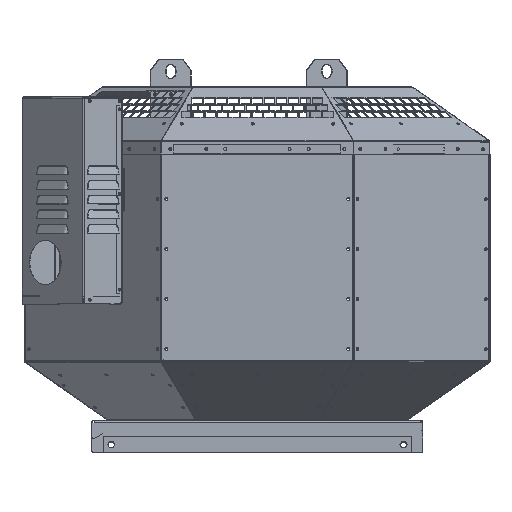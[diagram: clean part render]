
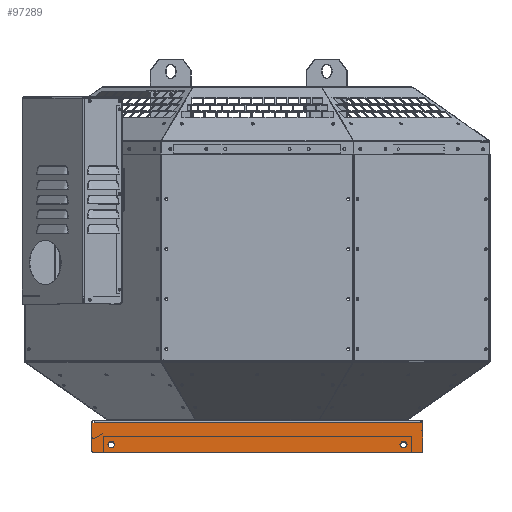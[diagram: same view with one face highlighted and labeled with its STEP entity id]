
A CAD part, top view. The second image highlights one B-rep face of the part: STEP entity #97289.
In plain terms, the highlighted planar face has unit normal (0, 0, 1).
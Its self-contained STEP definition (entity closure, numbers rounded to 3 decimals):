
#28 = EDGE_CURVE ( 'NONE', #84892, #71558, #55394, .T. ) ;
#1689 = DIRECTION ( 'NONE',  ( 1., 0., 0. ) ) ;
#2508 = FACE_OUTER_BOUND ( 'NONE', #82735, .T. ) ;
#4358 = DIRECTION ( 'NONE',  ( 0., 0., 1. ) ) ;
#5643 = DIRECTION ( 'NONE',  ( 0., -1., 0. ) ) ;
#6312 = CIRCLE ( 'NONE', #97469, 3. ) ;
#6555 = LINE ( 'NONE', #84169, #69937 ) ;
#7657 = CARTESIAN_POINT ( 'NONE',  ( 204.5, -13.2, 220.3 ) ) ;
#7997 = CARTESIAN_POINT ( 'NONE',  ( -228.75, -24., 220.3 ) ) ;
#8173 = CIRCLE ( 'NONE', #68276, 4.5 ) ;
#8330 = CARTESIAN_POINT ( 'NONE',  ( -215.75, -24., 220.3 ) ) ;
#8606 = EDGE_CURVE ( 'NONE', #87489, #104106, #6312, .T. ) ;
#8801 = CIRCLE ( 'NONE', #69720, 4.5 ) ;
#9143 = ORIENTED_EDGE ( 'NONE', *, *, #93386, .F. ) ;
#9507 = CARTESIAN_POINT ( 'NONE',  ( 231.75, 17.6, 220.3 ) ) ;
#10262 = LINE ( 'NONE', #58693, #95721 ) ;
#11489 = CARTESIAN_POINT ( 'NONE',  ( -204.5, -13.2, 220.3 ) ) ;
#12673 = ORIENTED_EDGE ( 'NONE', *, *, #30685, .F. ) ;
#12712 = VERTEX_POINT ( 'NONE', #107083 ) ;
#12759 = ORIENTED_EDGE ( 'NONE', *, *, #61240, .F. ) ;
#13928 = VERTEX_POINT ( 'NONE', #58318 ) ;
#15952 = PLANE ( 'NONE',  #75641 ) ;
#15955 = DIRECTION ( 'NONE',  ( 0., -1., 0. ) ) ;
#16637 = DIRECTION ( 'NONE',  ( -1., 0., 0. ) ) ;
#17750 = VERTEX_POINT ( 'NONE', #46369 ) ;
#19090 = VERTEX_POINT ( 'NONE', #56769 ) ;
#19810 = DIRECTION ( 'NONE',  ( 0., -1., 0. ) ) ;
#21574 = EDGE_CURVE ( 'NONE', #71558, #36929, #84402, .T. ) ;
#21606 = VERTEX_POINT ( 'NONE', #30955 ) ;
#22005 = CARTESIAN_POINT ( 'NONE',  ( -231.75, -21., 220.3 ) ) ;
#22439 = EDGE_CURVE ( 'NONE', #17750, #49286, #6555, .T. ) ;
#23155 = EDGE_CURVE ( 'NONE', #17750, #91857, #10262, .T. ) ;
#23888 = EDGE_CURVE ( 'NONE', #13928, #19090, #8801, .T. ) ;
#24310 = CARTESIAN_POINT ( 'NONE',  ( -215.75, 19.5, 220.3 ) ) ;
#26759 = LINE ( 'NONE', #80713, #46217 ) ;
#29825 = EDGE_LOOP ( 'NONE', ( #9143, #12759 ) ) ;
#30251 = DIRECTION ( 'NONE',  ( 0., -1., 0. ) ) ;
#30685 = EDGE_CURVE ( 'NONE', #19090, #13928, #61162, .T. ) ;
#30955 = CARTESIAN_POINT ( 'NONE',  ( 204.5, -17.7, 220.3 ) ) ;
#34436 = EDGE_CURVE ( 'NONE', #49286, #104106, #42451, .T. ) ;
#35492 = VECTOR ( 'NONE', #16637, 1000. ) ;
#35947 = VECTOR ( 'NONE', #30251, 1000. ) ;
#36715 = EDGE_CURVE ( 'NONE', #87489, #36929, #38106, .T. ) ;
#36929 = VERTEX_POINT ( 'NONE', #7997 ) ;
#37343 = CARTESIAN_POINT ( 'NONE',  ( -204.5, -13.2, 220.3 ) ) ;
#38106 = LINE ( 'NONE', #8330, #35492 ) ;
#38568 = CARTESIAN_POINT ( 'NONE',  ( -231.75, 17.6, 220.3 ) ) ;
#38774 = FACE_BOUND ( 'NONE', #100749, .T. ) ;
#38861 = CARTESIAN_POINT ( 'NONE',  ( 231.75, 17.6, 220.3 ) ) ;
#40979 = DIRECTION ( 'NONE',  ( 0., -1., 0. ) ) ;
#42175 = CARTESIAN_POINT ( 'NONE',  ( 228.75, -21., 220.3 ) ) ;
#42451 = LINE ( 'NONE', #9507, #86439 ) ;
#42470 = DIRECTION ( 'NONE',  ( 0., -1., 0. ) ) ;
#42998 = AXIS2_PLACEMENT_3D ( 'NONE', #11489, #69363, #19810 ) ;
#45672 = DIRECTION ( 'NONE',  ( 0., -1., 0. ) ) ;
#46217 = VECTOR ( 'NONE', #89014, 1000. ) ;
#46369 = CARTESIAN_POINT ( 'NONE',  ( 228.35, 17.6, 220.3 ) ) ;
#47422 = ORIENTED_EDGE ( 'NONE', *, *, #8606, .T. ) ;
#48437 = ORIENTED_EDGE ( 'NONE', *, *, #34436, .F. ) ;
#49286 = VERTEX_POINT ( 'NONE', #38861 ) ;
#50169 = ORIENTED_EDGE ( 'NONE', *, *, #21574, .T. ) ;
#50544 = DIRECTION ( 'NONE',  ( 0., -1., 0. ) ) ;
#53969 = CARTESIAN_POINT ( 'NONE',  ( 204.5, -13.2, 220.3 ) ) ;
#55229 = DIRECTION ( 'NONE',  ( 0., 0., 1. ) ) ;
#55394 = LINE ( 'NONE', #38568, #35947 ) ;
#56769 = CARTESIAN_POINT ( 'NONE',  ( -204.5, -8.7, 220.3 ) ) ;
#57853 = AXIS2_PLACEMENT_3D ( 'NONE', #104722, #55229, #5643 ) ;
#58318 = CARTESIAN_POINT ( 'NONE',  ( -204.5, -17.7, 220.3 ) ) ;
#58693 = CARTESIAN_POINT ( 'NONE',  ( -215.75, 17.6, 220.3 ) ) ;
#60708 = FACE_BOUND ( 'NONE', #29825, .T. ) ;
#61162 = CIRCLE ( 'NONE', #42998, 4.5 ) ;
#61240 = EDGE_CURVE ( 'NONE', #12712, #21606, #73437, .T. ) ;
#62225 = DIRECTION ( 'NONE',  ( 0., -1., 0. ) ) ;
#65518 = DIRECTION ( 'NONE',  ( 0., 0., 1. ) ) ;
#68276 = AXIS2_PLACEMENT_3D ( 'NONE', #7657, #65518, #15955 ) ;
#68797 = ORIENTED_EDGE ( 'NONE', *, *, #22439, .F. ) ;
#69363 = DIRECTION ( 'NONE',  ( 0., 0., 1. ) ) ;
#69720 = AXIS2_PLACEMENT_3D ( 'NONE', #37343, #95189, #45672 ) ;
#69937 = VECTOR ( 'NONE', #1689, 1000. ) ;
#71558 = VERTEX_POINT ( 'NONE', #22005 ) ;
#71762 = CARTESIAN_POINT ( 'NONE',  ( -228.35, 17.6, 220.3 ) ) ;
#73437 = CIRCLE ( 'NONE', #89836, 4.5 ) ;
#75641 = AXIS2_PLACEMENT_3D ( 'NONE', #24310, #90478, #40979 ) ;
#80080 = CARTESIAN_POINT ( 'NONE',  ( 231.75, -21., 220.3 ) ) ;
#80713 = CARTESIAN_POINT ( 'NONE',  ( -215.75, 17.6, 220.3 ) ) ;
#82735 = EDGE_LOOP ( 'NONE', ( #100918, #47422, #48437, #68797, #105511, #88575, #89261, #50169 ) ) ;
#82884 = ORIENTED_EDGE ( 'NONE', *, *, #23888, .F. ) ;
#84169 = CARTESIAN_POINT ( 'NONE',  ( 215.75, 17.6, 220.3 ) ) ;
#84402 = CIRCLE ( 'NONE', #57853, 3. ) ;
#84892 = VERTEX_POINT ( 'NONE', #94649 ) ;
#86439 = VECTOR ( 'NONE', #42470, 1000. ) ;
#87489 = VERTEX_POINT ( 'NONE', #88753 ) ;
#88575 = ORIENTED_EDGE ( 'NONE', *, *, #90370, .T. ) ;
#88753 = CARTESIAN_POINT ( 'NONE',  ( 228.75, -24., 220.3 ) ) ;
#89014 = DIRECTION ( 'NONE',  ( -1., 0., 0. ) ) ;
#89261 = ORIENTED_EDGE ( 'NONE', *, *, #28, .T. ) ;
#89836 = AXIS2_PLACEMENT_3D ( 'NONE', #53969, #4358, #62225 ) ;
#90370 = EDGE_CURVE ( 'NONE', #91857, #84892, #26759, .T. ) ;
#90478 = DIRECTION ( 'NONE',  ( 0., 0., 1. ) ) ;
#91857 = VERTEX_POINT ( 'NONE', #71762 ) ;
#93386 = EDGE_CURVE ( 'NONE', #21606, #12712, #8173, .T. ) ;
#94649 = CARTESIAN_POINT ( 'NONE',  ( -231.75, 17.6, 220.3 ) ) ;
#95189 = DIRECTION ( 'NONE',  ( 0., 0., 1. ) ) ;
#95721 = VECTOR ( 'NONE', #100652, 1000. ) ;
#97289 = ADVANCED_FACE ( 'NONE', ( #60708, #38774, #2508 ), #15952, .T. ) ;
#97469 = AXIS2_PLACEMENT_3D ( 'NONE', #42175, #100011, #50544 ) ;
#100011 = DIRECTION ( 'NONE',  ( 0., 0., 1. ) ) ;
#100652 = DIRECTION ( 'NONE',  ( -1., 0., 0. ) ) ;
#100749 = EDGE_LOOP ( 'NONE', ( #82884, #12673 ) ) ;
#100918 = ORIENTED_EDGE ( 'NONE', *, *, #36715, .F. ) ;
#104106 = VERTEX_POINT ( 'NONE', #80080 ) ;
#104722 = CARTESIAN_POINT ( 'NONE',  ( -228.75, -21., 220.3 ) ) ;
#105511 = ORIENTED_EDGE ( 'NONE', *, *, #23155, .T. ) ;
#107083 = CARTESIAN_POINT ( 'NONE',  ( 204.5, -8.7, 220.3 ) ) ;
